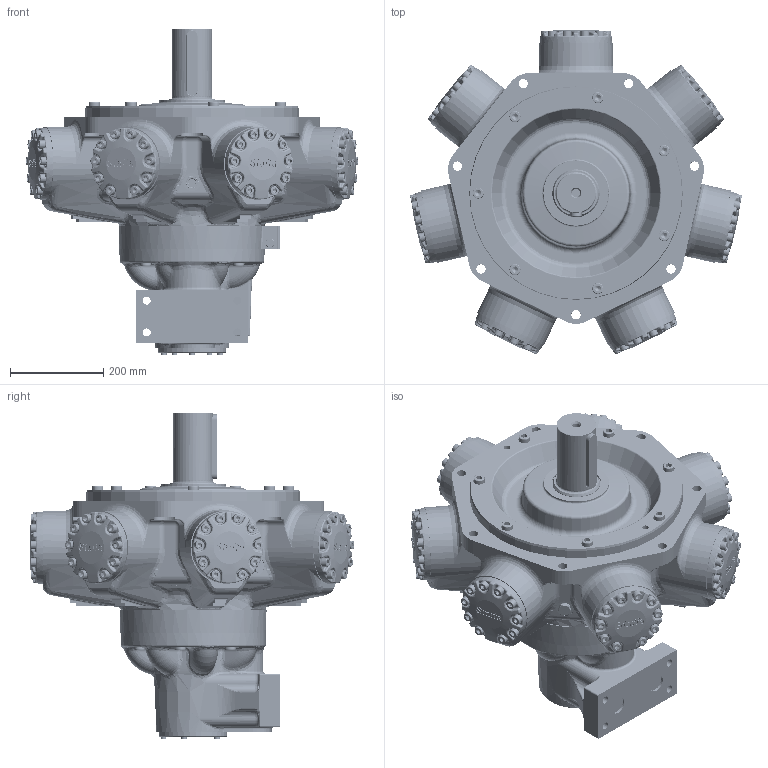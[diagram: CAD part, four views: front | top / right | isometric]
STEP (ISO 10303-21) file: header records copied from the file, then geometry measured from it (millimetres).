
FILE_DESCRIPTION(/* description */ (''),/* implementation_level */ '2;1');
FILE_NAME(/* name */ 'HMC270_P1_SM4_C.stp',/* time_stamp */ '2025-06-16T11:18:08+01:00',/* author */ ('ccallanga'),/* organization */ (''),/* preprocessor_version */ 'ST-DEVELOPER v20',/* originating_system */ 'Autodesk Inventor 2024',/* authorisation */ '');
FILE_SCHEMA (('AUTOMOTIVE_DESIGN { 1 0 10303 214 3 1 1 }'));
Products named in the file (1): 017752 HMC270 Web Assembly_Simplify_1
Bounding box: 711.04 x 695.71 x 698.32 mm (x, y, z)
Volume: 73433494 mm3; surface area: 1703837.9 mm2
Topology: 1 solids, 1 shells, 6755 faces, 16524 edges, 9845 vertices
Faces by surface type: bspline 2703, plane 1961, cylinder 1253, torus 503, sphere 176, cone 159
Full cylindrical faces by diameter (mm): 2.2 x4, 4 x1, 4.134 x4, 5.5 x4, 6.05 x2, 11.913 x5, 12.7 x5, 14.351 x2, 16.51 x1, 17 x4, 17.323 x1, 19 x1, 19.05 x70, 20 x7, 20.637 x70, 23.825 x14, 25 x5, 25.4 x14, 26.92 x2, 38 x2, 38.1 x3, 85.001 x1, 101.575 x1, 106.68 x1, 139.7 x1, 146.05 x1, 311 x1, 311.15 x1, 457.11 x1
Entity records: 298961 total; most frequent: CARTESIAN_POINT 153770, ORIENTED_EDGE 32430, DIRECTION 22405, EDGE_CURVE 16215, VERTEX_POINT 9845, AXIS2_PLACEMENT_3D 8375, EDGE_LOOP 7162, STYLED_ITEM 6756
